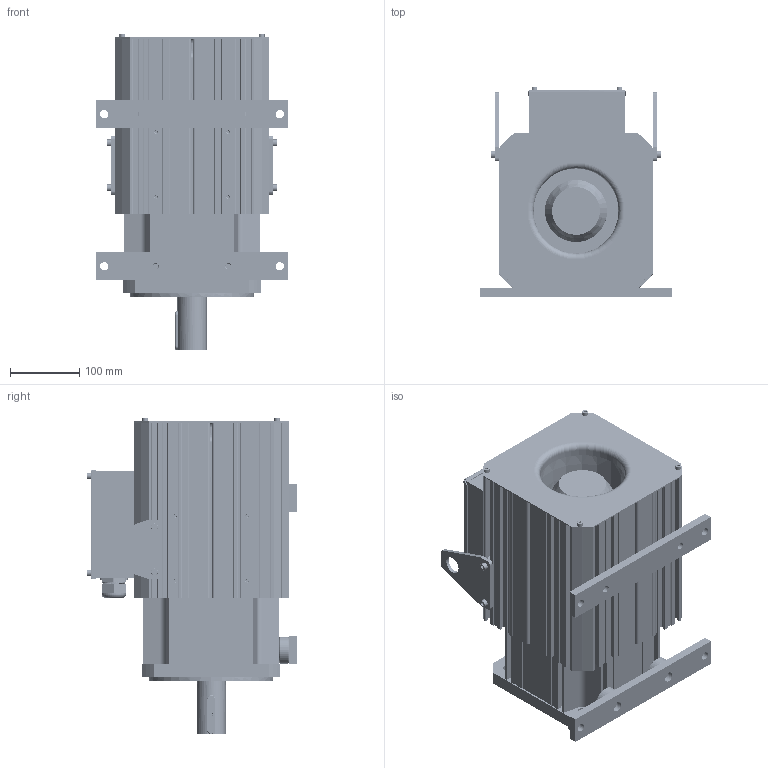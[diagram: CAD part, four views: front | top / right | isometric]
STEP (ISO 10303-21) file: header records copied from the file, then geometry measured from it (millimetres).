
FILE_DESCRIPTION (( 'STEP AP203' ), '1' );
FILE_NAME ('ZE1803.STEP', '2024-10-23T06:30:54', ( 'MicroSoft' ), ( 'MicroSoft' ), 'SwSTEP 2.0', 'SolidWorks 2020', '' );
FILE_SCHEMA (( 'CONFIG_CONTROL_DESIGN' ));
Length unit declared in the file: millimetre
Products named in the file (44): Z18-01-02(18前法兰); PG 13.5滅阨諉芛; Z18-01-22(18瑞圮假蚾啣); M32X1.5滅阨諉芛 2; 18风扇-175FLW-3 380V（3080103010006）; Z18-01-17(絳瑞啣B)_1803; Z18-01-01(18儂褲)_1803; 裂嫉; 唅曹晤鎢ん軞蚾; Z18-01-24(18諉盄碟); Z18-01-03(18极胜后法兰)_常规款; Z航插15芯（公头电机端）28; ZE18袪粣圉羲溫瑩羞_1803; 唅曹晤鎢ん; 90僅濮揤傷赽; GB╱T 276-2013[深沟球轴承[60000]6306]; PG 13.5滅阨諉芛 1; M32X1.5滅阨諉芛 1; Z18-01-16(絳瑞啣A)_1803; 唅曹晤鎢ん盓殤; Z18-01-20(18盓殤菜輸); 内六角圆柱头螺钉[GB／T70.1-2008][M8×30]_M8×30; 18 萇儂諉盄碟裔; Z18-01-14(萇儂菁褐盓殤-1); 唅曹晤鎢ん蛌赽; Z18-01-21(18綴結啣); Z18-01-19(絳瑞啣D)_1803; ZE1803; 18す瑩56酗; M32X1.5滅阨諉芛; 内六角圆柱头螺钉[GB／T70.1-2008][M6×16]_M6×16; M6 T倰蹟譫; Z18-01-15(萇儂菁褐盓殤-2); 傷赽齬; Z18-01-09(粣創嶺裔)_都寞; 内六角圆柱头螺钉[GB／T70.1-2008][M5×35]_M5×10; GB／T276-94深沟球轴承6309-2Z; 傷赽齬嘐隅え; PG 13.5滅阨諉芛 3; M32X1.5滅阨諉芛 3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
Assembly tree (75 placements, depth 3):
  ZE1803
    Z18-01-01(18儂褲)_1803
    Z18-01-02(18前法兰)
    Z18-01-03(18极胜后法兰)_常规款
    ZE18袪粣圉羲溫瑩羞_1803
    Z18-01-09(粣創嶺裔)_都寞
    Z18-01-14(萇儂菁褐盓殤-1)
    Z18-01-15(萇儂菁褐盓殤-2)
    Z18-01-20(18盓殤菜輸)  x2
    Z18-01-21(18綴結啣)
    Z18-01-22(18瑞圮假蚾啣)
    GB／T276-94深沟球轴承6309-2Z
    GB╱T 276-2013[深沟球轴承[60000]6306]
    18す瑩56酗
    Z18-01-24(18諉盄碟)
    18风扇-175FLW-3 380V（3080103010006）
    Z18-01-16(絳瑞啣A)_1803
    Z18-01-17(絳瑞啣B)_1803
    Z18-01-18(絳瑞啣C)_1803  x3
    Z18-01-19(絳瑞啣D)_1803  x3
    傷赽齬嘐隅え
    傷赽齬
    90僅濮揤傷赽  x3
    18 萇儂諉盄碟裔
    内六角圆柱头螺钉[GB／T70.1-2008][M5×10]_M5×10  x8
    内六角圆柱头螺钉[GB／T70.1-2008][M8×30]_M8×30  x8
    内六角圆柱头螺钉[GB／T70.1-2008][M5×35]_M5×10  x5
    裂嫉  x2
    内六角圆柱头螺钉[GB／T70.1-2008][M6×16]_M6×16  x4
    M6 T倰蹟譫  x4
    Z航插15芯（公头电机端）28
    PG 13.5滅阨諉芛
      PG 13.5滅阨諉芛 2
      PG 13.5滅阨諉芛 3
      PG 13.5滅阨諉芛 1
    M32X1.5滅阨諉芛
      M32X1.5滅阨諉芛 2
      M32X1.5滅阨諉芛 3
      M32X1.5滅阨諉芛 1
    唅曹晤鎢ん軞蚾
      唅曹晤鎢ん
      唅曹晤鎢ん盓殤
      唅曹晤鎢ん蛌赽
      唅曹す菜
Bounding box: 277 x 303.5 x 457 mm (x, y, z)
Volume: 7155168.6 mm3; surface area: 2306082.4 mm2
Topology: 85 solids, 85 shells, 4240 faces, 11406 edges, 7324 vertices
Faces by surface type: cylinder 1788, plane 1698, cone 309, torus 196, sphere 173, bspline 76
Entity records: 128242 total; most frequent: CARTESIAN_POINT 46847, ORIENTED_EDGE 16340, DIRECTION 15724, EDGE_CURVE 8170, AXIS2_PLACEMENT_3D 5960, VERTEX_POINT 5312, LINE 3804, VECTOR 3804
